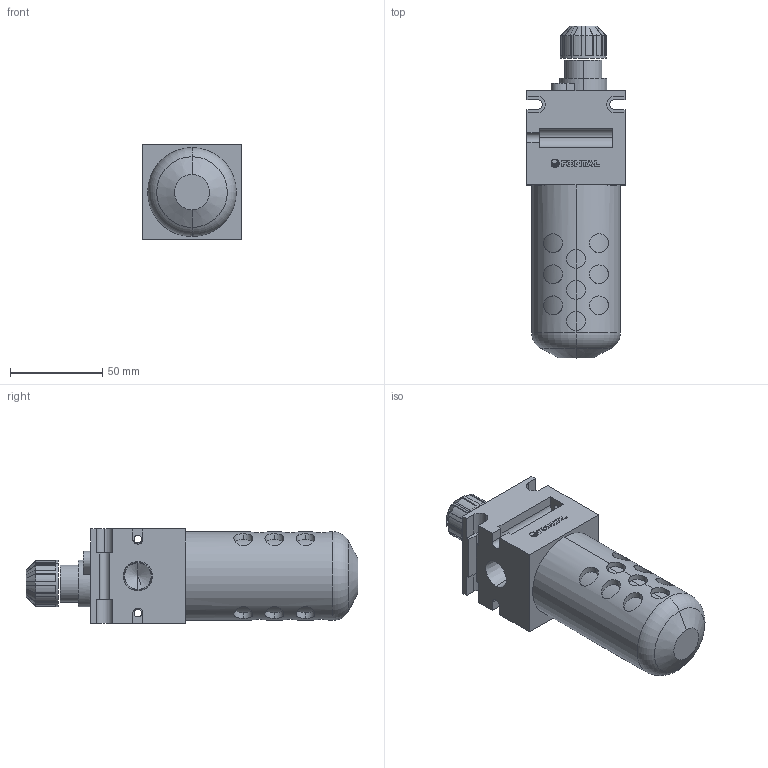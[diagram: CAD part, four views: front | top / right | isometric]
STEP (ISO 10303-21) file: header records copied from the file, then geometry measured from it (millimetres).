
FILE_DESCRIPTION (( 'STEP AP203' ), '1' );
FILE_NAME ('L55-03#.STEP', '2016-02-03T06:51:46', ( 'Toshiba' ), ( 'Toshiba' ), 'SwSTEP 2.0', 'SolidWorks 2014', '' );
FILE_SCHEMA (( 'CONFIG_CONTROL_DESIGN' ));
Length unit declared in the file: millimetre
Products named in the file (8): F55-03; L45-2; L55-03#; L45-1; F55=03; F55-2; L508-5; F45-MARK
Assembly tree (7 placements, depth 3):
  L55-03#
    F55=03
      F55-03
      F55-2
      F45-MARK
    L45-2
    L508-5
    L45-1
Bounding box: 53 x 179.5 x 51.12 mm (x, y, z)
Volume: 286014.5 mm3; surface area: 45131.1 mm2
Topology: 12 solids, 12 shells, 350 faces, 919 edges, 608 vertices
Faces by surface type: plane 191, cylinder 127, cone 22, bspline 8, torus 2
Entity records: 14329 total; most frequent: CARTESIAN_POINT 4976, ORIENTED_EDGE 1830, DIRECTION 1655, EDGE_CURVE 915, VERTEX_POINT 608, LINE 593, VECTOR 593, AXIS2_PLACEMENT_3D 531
